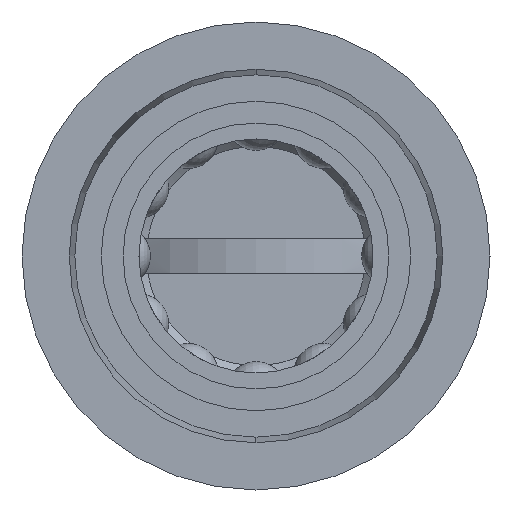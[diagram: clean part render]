
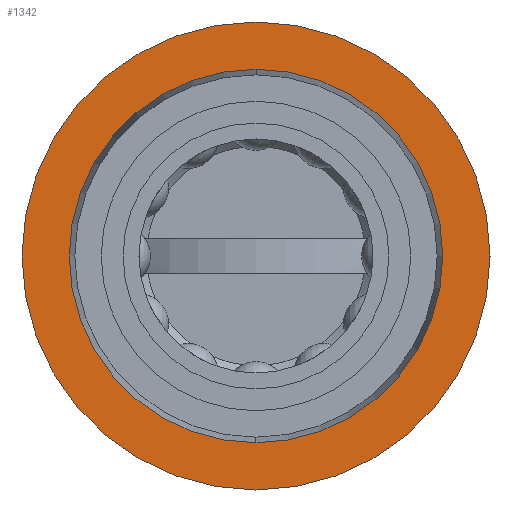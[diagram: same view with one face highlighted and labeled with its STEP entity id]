
A CAD part, left-side view. The second image highlights one B-rep face of the part: STEP entity #1342.
In plain terms, the highlighted planar face has unit normal (-1, 0, 0).
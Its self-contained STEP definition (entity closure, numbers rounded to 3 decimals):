
#31 = AXIS2_PLACEMENT_3D ( 'NONE', #2950, #2951, #2952 ) ;
#40 = AXIS2_PLACEMENT_3D ( 'NONE', #2962, #2963, #2964 ) ;
#694 = ORIENTED_EDGE ( 'NONE', *, *, #1422, .F. ) ;
#695 = ORIENTED_EDGE ( 'NONE', *, *, #1078, .F. ) ;
#696 = ORIENTED_EDGE ( 'NONE', *, *, #1074, .T. ) ;
#697 = ORIENTED_EDGE ( 'NONE', *, *, #1423, .T. ) ;
#1074 = EDGE_CURVE ( 'NONE', #1999, #1998, #3061, .T. ) ;
#1078 = EDGE_CURVE ( 'NONE', #2002, #2003, #3063, .T. ) ;
#1342 = ADVANCED_FACE ( 'NONE', ( #5114, #5116 ), #4571, .F. ) ;
#1422 = EDGE_CURVE ( 'NONE', #2003, #2002, #3122, .T. ) ;
#1423 = EDGE_CURVE ( 'NONE', #1998, #1999, #3123, .T. ) ;
#1998 = VERTEX_POINT ( 'NONE', #7692 ) ;
#1999 = VERTEX_POINT ( 'NONE', #7693 ) ;
#2002 = VERTEX_POINT ( 'NONE', #7696 ) ;
#2003 = VERTEX_POINT ( 'NONE', #7697 ) ;
#2364 = EDGE_LOOP ( 'NONE', ( #694, #695 ) ) ;
#2365 = EDGE_LOOP ( 'NONE', ( #696, #697 ) ) ;
#2950 = CARTESIAN_POINT ( 'NONE',  ( 0., 0., 0. ) ) ;
#2951 = DIRECTION ( 'NONE',  ( -1., 0., 0. ) ) ;
#2952 = DIRECTION ( 'NONE',  ( 0., 0., 1. ) ) ;
#2962 = CARTESIAN_POINT ( 'NONE',  ( 0., 0., 0. ) ) ;
#2963 = DIRECTION ( 'NONE',  ( -1., 0., 0. ) ) ;
#2964 = DIRECTION ( 'NONE',  ( 0., 0., 1. ) ) ;
#3061 = CIRCLE ( 'NONE', #31, 15.5 ) ;
#3063 = CIRCLE ( 'NONE', #40, 12.37 ) ;
#3122 = CIRCLE ( 'NONE', #5182, 12.37 ) ;
#3123 = CIRCLE ( 'NONE', #5183, 15.5 ) ;
#4571 = PLANE ( 'NONE',  #5118 ) ;
#4572 = CARTESIAN_POINT ( 'NONE',  ( 0., 12.37, 0. ) ) ;
#4573 = DIRECTION ( 'NONE',  ( 1., 0., 0. ) ) ;
#4574 = DIRECTION ( 'NONE',  ( 0., 0., -1. ) ) ;
#4855 = CARTESIAN_POINT ( 'NONE',  ( 0., 0., 0. ) ) ;
#4856 = DIRECTION ( 'NONE',  ( -1., 0., 0. ) ) ;
#4857 = DIRECTION ( 'NONE',  ( 0., 0., 1. ) ) ;
#4858 = CARTESIAN_POINT ( 'NONE',  ( 0., 0., 0. ) ) ;
#4859 = DIRECTION ( 'NONE',  ( -1., 0., 0. ) ) ;
#4860 = DIRECTION ( 'NONE',  ( 0., 0., 1. ) ) ;
#5114 = FACE_BOUND ( 'NONE', #2364, .T. ) ;
#5116 = FACE_OUTER_BOUND ( 'NONE', #2365, .T. ) ;
#5118 = AXIS2_PLACEMENT_3D ( 'NONE', #4572, #4573, #4574 ) ;
#5182 = AXIS2_PLACEMENT_3D ( 'NONE', #4855, #4856, #4857 ) ;
#5183 = AXIS2_PLACEMENT_3D ( 'NONE', #4858, #4859, #4860 ) ;
#7692 = CARTESIAN_POINT ( 'NONE',  ( 0., 0., -15.5 ) ) ;
#7693 = CARTESIAN_POINT ( 'NONE',  ( 0., 0., 15.5 ) ) ;
#7696 = CARTESIAN_POINT ( 'NONE',  ( 0., 0., -12.37 ) ) ;
#7697 = CARTESIAN_POINT ( 'NONE',  ( 0., 0., 12.37 ) ) ;
